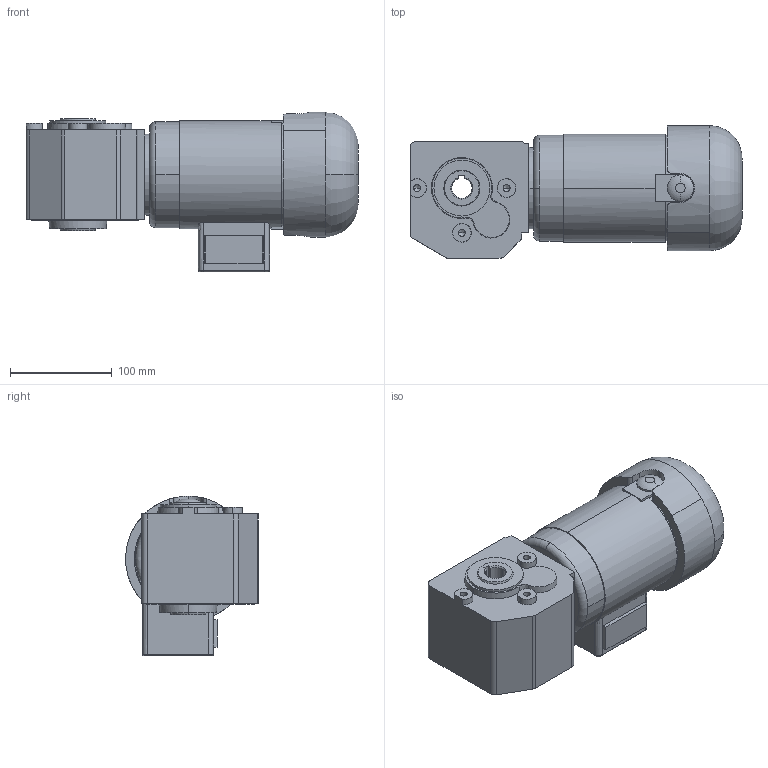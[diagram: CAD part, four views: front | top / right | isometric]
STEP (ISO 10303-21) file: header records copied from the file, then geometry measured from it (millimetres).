
FILE_DESCRIPTION(('OneSpaceDesigner STEP Export'),'2;1');
FILE_NAME('KGOG61-62_ZB45_E.stp','2008-08-21T15:13:48',(''),(''),'OneSpace Designer STEP processor (Jan. 2003) for AP214(CD)(Solid Model)','OneSpace Designer 12.01D 09-Jul-2004 (C) CoCreate Software GmbH','');
FILE_SCHEMA(('AUTOMOTIVE_DESIGN_CC2 {1 2 10303 214 -1 1 5 1}'));
Length unit declared in the file: millimetre
Products named in the file (2): KGOG61-62_ZB45_E
Assembly tree (1 placements, depth 2):
  KGOG61-62_ZB45_E
    KGOG61-62_ZB45_E
Bounding box: 326.5 x 130.5 x 157 mm (x, y, z)
Volume: 3347906.7 mm3; surface area: 172953.2 mm2
Topology: 1 solids, 1 shells, 159 faces, 399 edges, 256 vertices
Faces by surface type: plane 58, cylinder 50, bspline 23, cone 16, torus 8, extrusion 4
Entity records: 14903 total; most frequent: CARTESIAN_POINT 11562, ORIENTED_EDGE 786, DIRECTION 488, EDGE_CURVE 393, VERTEX_POINT 256, EDGE_LOOP 181, VECTOR 172, LINE 168
